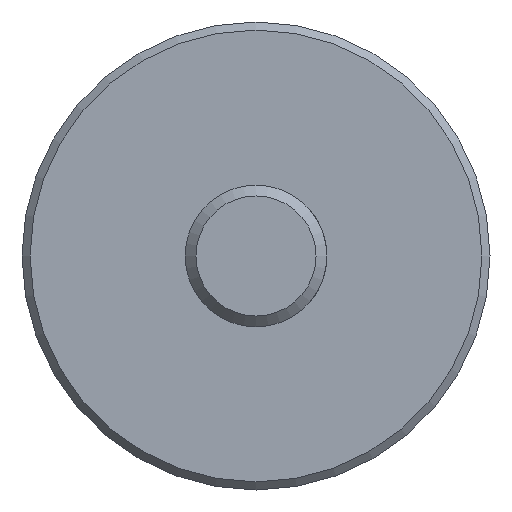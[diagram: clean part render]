
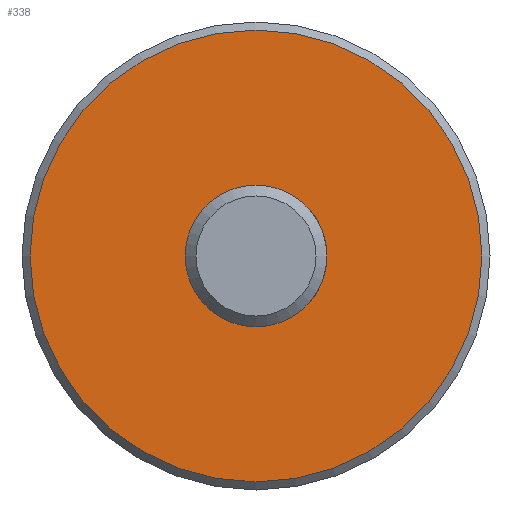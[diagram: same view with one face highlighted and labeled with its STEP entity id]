
A CAD part, front view. The second image highlights one B-rep face of the part: STEP entity #338.
In plain terms, the highlighted planar face has unit normal (0, -1, 0).
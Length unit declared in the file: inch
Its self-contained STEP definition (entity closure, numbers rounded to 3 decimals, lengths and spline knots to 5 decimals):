
#13 = EDGE_LOOP ( 'NONE', ( #206 ) ) ;
#41 = EDGE_CURVE ( 'NONE', #315, #315, #185, .T. ) ;
#58 = DIRECTION ( 'NONE',  ( 0., 0., 1. ) ) ;
#69 = DIRECTION ( 'NONE',  ( 0., 0., 1. ) ) ;
#106 = DIRECTION ( 'NONE',  ( 0., 1., 0. ) ) ;
#142 = CARTESIAN_POINT ( 'NONE',  ( 0.3937, 3.28, 0. ) ) ;
#177 = AXIS2_PLACEMENT_3D ( 'NONE', #249, #106, #69 ) ;
#185 = CIRCLE ( 'NONE', #574, 1.255 ) ;
#206 = ORIENTED_EDGE ( 'NONE', *, *, #41, .F. ) ;
#229 = ORIENTED_EDGE ( 'NONE', *, *, #352, .T. ) ;
#245 = CIRCLE ( 'NONE', #177, 0.3937 ) ;
#249 = CARTESIAN_POINT ( 'NONE',  ( 0., 3.28, 0. ) ) ;
#301 = DIRECTION ( 'NONE',  ( 0., 1., 0. ) ) ;
#315 = VERTEX_POINT ( 'NONE', #520 ) ;
#323 = FACE_OUTER_BOUND ( 'NONE', #13, .T. ) ;
#336 = CARTESIAN_POINT ( 'NONE',  ( 0., 3.28, 0. ) ) ;
#338 = ADVANCED_FACE ( 'NONE', ( #323, #492 ), #377, .F. ) ;
#352 = EDGE_CURVE ( 'NONE', #362, #362, #245, .T. ) ;
#362 = VERTEX_POINT ( 'NONE', #536 ) ;
#377 = PLANE ( 'NONE',  #486 ) ;
#457 = DIRECTION ( 'NONE',  ( 0., 1., 0. ) ) ;
#473 = DIRECTION ( 'NONE',  ( 0., 0., 1. ) ) ;
#486 = AXIS2_PLACEMENT_3D ( 'NONE', #142, #457, #58 ) ;
#492 = FACE_BOUND ( 'NONE', #498, .T. ) ;
#498 = EDGE_LOOP ( 'NONE', ( #229 ) ) ;
#520 = CARTESIAN_POINT ( 'NONE',  ( 0., 3.28, 1.255 ) ) ;
#536 = CARTESIAN_POINT ( 'NONE',  ( 0., 3.28, 0.3937 ) ) ;
#574 = AXIS2_PLACEMENT_3D ( 'NONE', #336, #301, #473 ) ;
